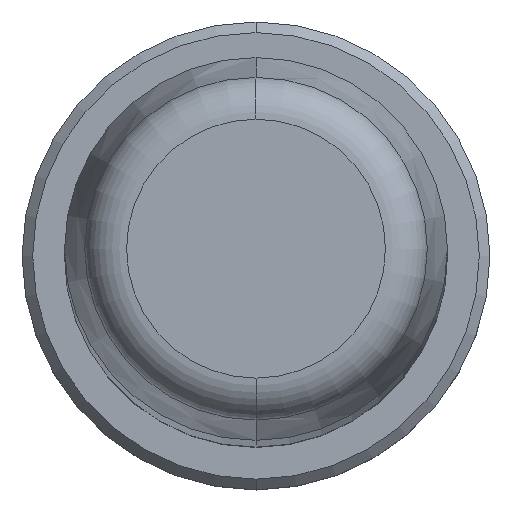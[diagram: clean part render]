
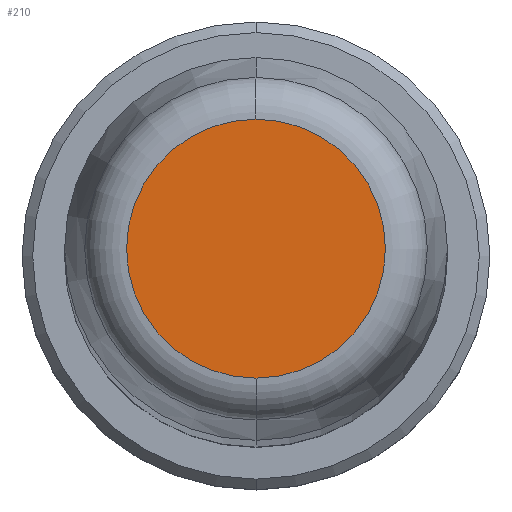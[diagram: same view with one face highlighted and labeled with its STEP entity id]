
A CAD part, top view. The second image highlights one B-rep face of the part: STEP entity #210.
In plain terms, the highlighted planar face has unit normal (0, 0, 1).
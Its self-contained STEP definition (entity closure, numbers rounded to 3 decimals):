
#1=CARTESIAN_POINT('',(0.,0.,200.));
#2=DIRECTION('',(0.,0.,-1.));
#3=DIRECTION('',(0.,-1.,0.));
#4=AXIS2_PLACEMENT_3D('',#1,#2,#3);
#6=CARTESIAN_POINT('',(0.,0.,200.));
#7=DIRECTION('',(0.,0.,-1.));
#8=DIRECTION('',(0.,1.,0.));
#9=AXIS2_PLACEMENT_3D('',#6,#7,#8);
#183=CARTESIAN_POINT('',(0.,-6.088,200.));
#184=CARTESIAN_POINT('',(0.,6.088,200.));
#185=VERTEX_POINT('',#183);
#186=VERTEX_POINT('',#184);
#199=CARTESIAN_POINT('',(0.,0.,200.));
#200=DIRECTION('',(0.,0.,1.));
#201=DIRECTION('',(0.,-1.,0.));
#202=AXIS2_PLACEMENT_3D('',#199,#200,#201);
#203=PLANE('',#202);
#205=ORIENTED_EDGE('',*,*,#204,.T.);
#207=ORIENTED_EDGE('',*,*,#206,.T.);
#208=EDGE_LOOP('',(#205,#207));
#209=FACE_OUTER_BOUND('',#208,.F.);
#210=ADVANCED_FACE('',(#209),#203,.T.);
#5=CIRCLE('',#4,6.088);
#10=CIRCLE('',#9,6.088);
#204=EDGE_CURVE('',#185,#186,#5,.T.);
#206=EDGE_CURVE('',#186,#185,#10,.T.);
